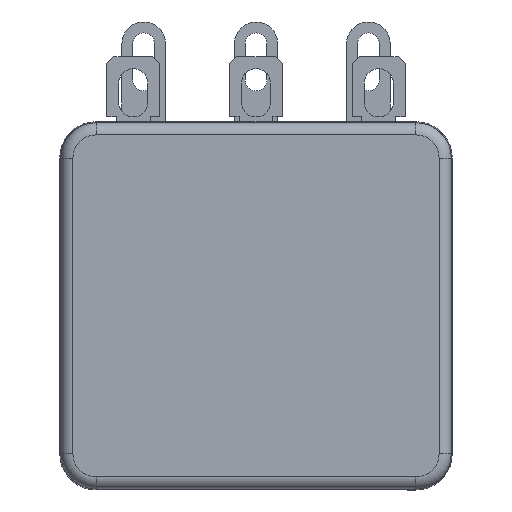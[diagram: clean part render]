
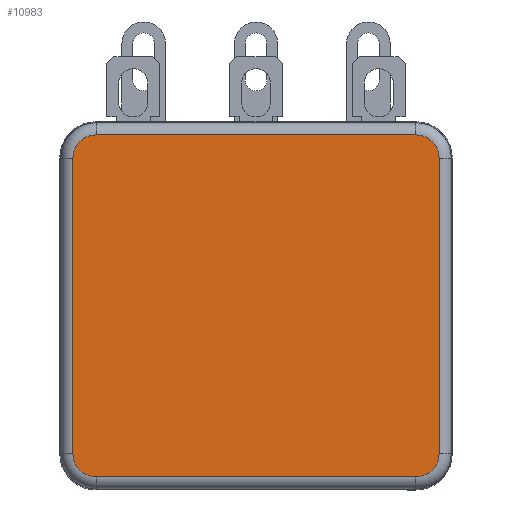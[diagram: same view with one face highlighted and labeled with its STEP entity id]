
A CAD part, left-side view. The second image highlights one B-rep face of the part: STEP entity #10983.
In plain terms, the highlighted planar face has unit normal (-1, 0, 0).
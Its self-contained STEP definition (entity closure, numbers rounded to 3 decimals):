
#750=LINE('',#17213,#1767);
#771=LINE('',#17282,#1788);
#772=LINE('',#17287,#1789);
#773=LINE('',#17290,#1790);
#1767=VECTOR('',#13962,1000.);
#1788=VECTOR('',#14049,1000.);
#1789=VECTOR('',#14052,1000.);
#1790=VECTOR('',#14055,1000.);
#2411=PLANE('',#11826);
#4227=ORIENTED_EDGE('',*,*,#6477,.T.);
#4228=ORIENTED_EDGE('',*,*,#6478,.F.);
#4229=ORIENTED_EDGE('',*,*,#6479,.T.);
#4230=ORIENTED_EDGE('',*,*,#6480,.F.);
#4231=ORIENTED_EDGE('',*,*,#6444,.T.);
#4232=ORIENTED_EDGE('',*,*,#6476,.F.);
#4233=ORIENTED_EDGE('',*,*,#6481,.T.);
#4234=ORIENTED_EDGE('',*,*,#6482,.F.);
#6444=EDGE_CURVE('',#7721,#7720,#750,.T.);
#6476=EDGE_CURVE('',#7735,#7720,#8422,.T.);
#6477=EDGE_CURVE('',#7736,#7737,#771,.T.);
#6478=EDGE_CURVE('',#7738,#7737,#8423,.T.);
#6479=EDGE_CURVE('',#7738,#7739,#772,.T.);
#6480=EDGE_CURVE('',#7721,#7739,#8424,.T.);
#6481=EDGE_CURVE('',#7735,#7740,#773,.T.);
#6482=EDGE_CURVE('',#7736,#7740,#8425,.T.);
#7720=VERTEX_POINT('',#17212);
#7721=VERTEX_POINT('',#17214);
#7735=VERTEX_POINT('',#17279);
#7736=VERTEX_POINT('',#17283);
#7737=VERTEX_POINT('',#17284);
#7738=VERTEX_POINT('',#17286);
#7739=VERTEX_POINT('',#17288);
#7740=VERTEX_POINT('',#17291);
#8422=CIRCLE('',#11825,0.959);
#8423=CIRCLE('',#11827,0.959);
#8424=CIRCLE('',#11828,0.959);
#8425=CIRCLE('',#11829,0.959);
#9051=EDGE_LOOP('',(#4227,#4228,#4229,#4230,#4231,#4232,#4233,#4234));
#9781=FACE_BOUND('',#9051,.T.);
#10983=ADVANCED_FACE('',(#9781),#2411,.F.);
#11825=AXIS2_PLACEMENT_3D('',#17280,#14045,#14046);
#11826=AXIS2_PLACEMENT_3D('',#17281,#14047,#14048);
#11827=AXIS2_PLACEMENT_3D('',#17285,#14050,#14051);
#11828=AXIS2_PLACEMENT_3D('',#17289,#14053,#14054);
#11829=AXIS2_PLACEMENT_3D('',#17292,#14056,#14057);
#13962=DIRECTION('',(0.,1.,0.));
#14045=DIRECTION('',(1.,0.,0.));
#14046=DIRECTION('',(0.,0.,-1.));
#14047=DIRECTION('',(1.,0.,0.));
#14048=DIRECTION('',(0.,0.,-1.));
#14049=DIRECTION('',(0.,-1.,0.));
#14050=DIRECTION('',(1.,0.,0.));
#14051=DIRECTION('',(0.,0.,-1.));
#14052=DIRECTION('',(0.,0.,1.));
#14053=DIRECTION('',(1.,0.,0.));
#14054=DIRECTION('',(0.,0.,-1.));
#14055=DIRECTION('',(0.,0.,-1.));
#14056=DIRECTION('',(1.,0.,0.));
#14057=DIRECTION('',(0.,0.,-1.));
#17212=CARTESIAN_POINT('',(-31.39,12.87,13.329));
#17213=CARTESIAN_POINT('',(-31.39,12.87,13.329));
#17214=CARTESIAN_POINT('',(-31.39,-0.37,13.329));
#17279=CARTESIAN_POINT('',(-31.39,13.829,12.37));
#17280=CARTESIAN_POINT('',(-31.39,12.87,12.37));
#17281=CARTESIAN_POINT('',(-31.39,12.87,12.37));
#17282=CARTESIAN_POINT('',(-31.39,12.87,-0.829));
#17283=CARTESIAN_POINT('',(-31.39,12.87,-0.829));
#17284=CARTESIAN_POINT('',(-31.39,-0.37,-0.829));
#17285=CARTESIAN_POINT('',(-31.39,-0.37,0.13));
#17286=CARTESIAN_POINT('',(-31.39,-1.329,0.13));
#17287=CARTESIAN_POINT('',(-31.39,-1.329,12.37));
#17288=CARTESIAN_POINT('',(-31.39,-1.329,12.37));
#17289=CARTESIAN_POINT('',(-31.39,-0.37,12.37));
#17290=CARTESIAN_POINT('',(-31.39,13.829,12.37));
#17291=CARTESIAN_POINT('',(-31.39,13.829,0.13));
#17292=CARTESIAN_POINT('',(-31.39,12.87,0.13));
